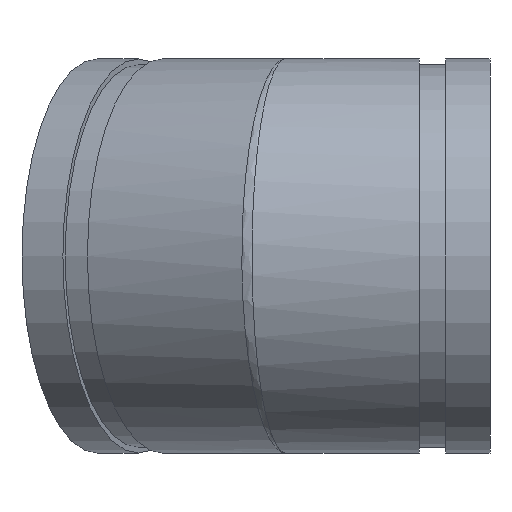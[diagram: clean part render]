
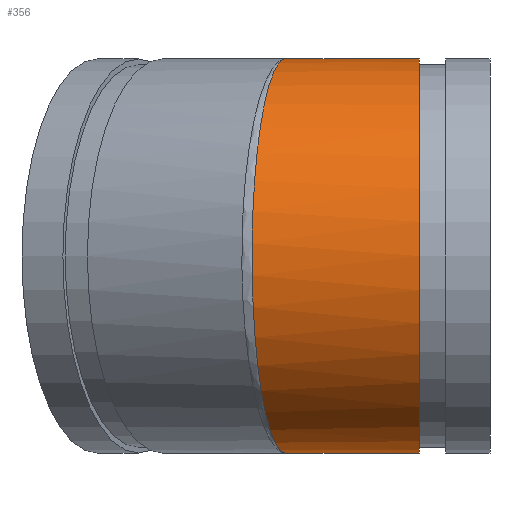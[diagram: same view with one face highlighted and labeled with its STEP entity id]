
A CAD part, left-side view. The second image highlights one B-rep face of the part: STEP entity #356.
In plain terms, the highlighted cylindrical face has radius 70.65 mm (diameter 141.3 mm), a full revolution.
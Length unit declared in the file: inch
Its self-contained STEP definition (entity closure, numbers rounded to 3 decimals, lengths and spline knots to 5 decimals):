
#66=LINE('',#706,#76);
#76=VECTOR('',#497,2.7815);
#88=CIRCLE('',#411,2.7815);
#108=CYLINDRICAL_SURFACE('',#410,2.7815);
#121=FACE_OUTER_BOUND('',#142,.T.);
#142=EDGE_LOOP('',(#271,#272,#273,#274,#275,#276));
#165=ELLIPSE('',#394,2.85148,2.7815);
#166=ELLIPSE('',#395,2.85148,2.7815);
#168=ELLIPSE('',#399,2.82239,2.7815);
#172=VERTEX_POINT('',#631);
#174=VERTEX_POINT('',#634);
#175=VERTEX_POINT('',#636);
#184=VERTEX_POINT('',#705);
#203=EDGE_CURVE('',#174,#175,#165,.T.);
#204=EDGE_CURVE('',#175,#172,#166,.T.);
#208=EDGE_CURVE('',#172,#174,#168,.T.);
#218=EDGE_CURVE('',#175,#184,#66,.T.);
#219=EDGE_CURVE('',#184,#184,#88,.T.);
#271=ORIENTED_EDGE('',*,*,#203,.F.);
#272=ORIENTED_EDGE('',*,*,#208,.F.);
#273=ORIENTED_EDGE('',*,*,#204,.F.);
#274=ORIENTED_EDGE('',*,*,#218,.T.);
#275=ORIENTED_EDGE('',*,*,#219,.F.);
#276=ORIENTED_EDGE('',*,*,#218,.F.);
#356=ADVANCED_FACE('',(#121),#108,.T.);
#394=AXIS2_PLACEMENT_3D('',#637,#460,#461);
#395=AXIS2_PLACEMENT_3D('',#638,#462,#463);
#399=AXIS2_PLACEMENT_3D('',#684,#471,#472);
#410=AXIS2_PLACEMENT_3D('',#704,#495,#496);
#411=AXIS2_PLACEMENT_3D('',#707,#498,#499);
#460=DIRECTION('center_axis',(0.22,0.975,0.));
#461=DIRECTION('ref_axis',(0.975,-0.22,0.));
#462=DIRECTION('center_axis',(0.22,0.975,0.));
#463=DIRECTION('ref_axis',(0.975,-0.22,0.));
#471=DIRECTION('center_axis',(0.17,0.986,0.));
#472=DIRECTION('ref_axis',(-0.986,0.17,0.));
#495=DIRECTION('center_axis',(0.,1.,0.));
#496=DIRECTION('ref_axis',(-1.,0.,0.));
#497=DIRECTION('',(0.,-1.,0.));
#498=DIRECTION('center_axis',(0.,-1.,0.));
#499=DIRECTION('ref_axis',(-1.,0.,0.));
#631=CARTESIAN_POINT('',(0.,2.88,-2.7815));
#634=CARTESIAN_POINT('',(0.,2.88,2.7815));
#636=CARTESIAN_POINT('',(2.7815,2.25213,0.));
#637=CARTESIAN_POINT('Origin',(0.,2.88,0.));
#638=CARTESIAN_POINT('Origin',(0.,2.88,0.));
#684=CARTESIAN_POINT('Origin',(0.,2.88,0.));
#704=CARTESIAN_POINT('Origin',(0.,1.,0.));
#705=CARTESIAN_POINT('',(2.7815,1.,0.));
#706=CARTESIAN_POINT('',(2.7815,1.,0.));
#707=CARTESIAN_POINT('Origin',(0.,1.,0.));
